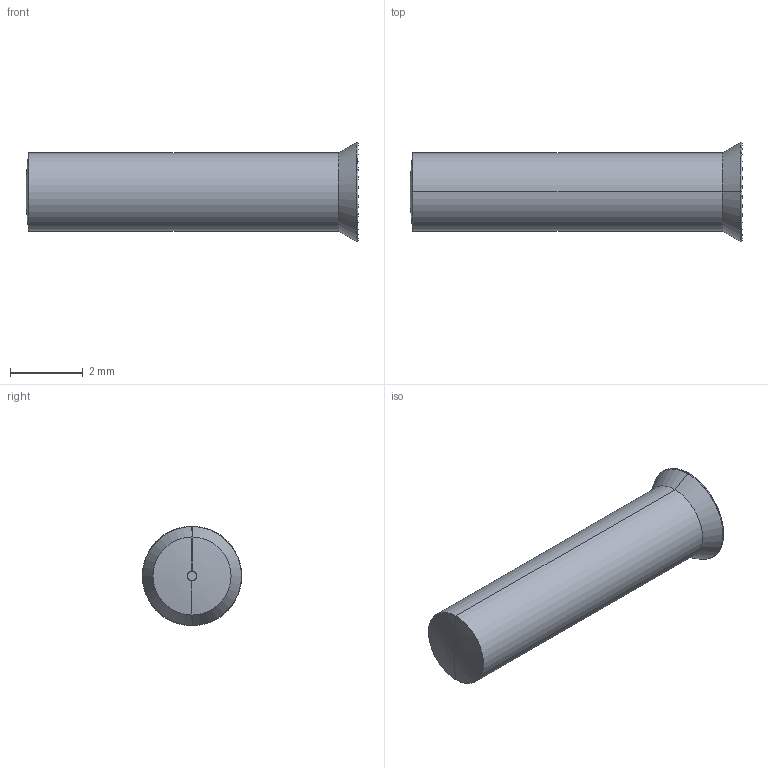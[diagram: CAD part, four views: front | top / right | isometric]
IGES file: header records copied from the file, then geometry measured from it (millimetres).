
Start section: SolidWorks IGES file using analytic representation for surfaces
Global section: file name: \\PSSILO\catalogs\CONTENTCENTRAL\Mainspring Cap Pin\Cache\E14DF600-25B7-4E63-B790-7CA6441F57E5.IGS; native system: SolidWorks 2009; preprocessor: SolidWorks 2009; author: partstream; date: 090731.225009; units: inch
Bounding box: 9.13 x 2.73 x 2.73 mm (x, y, z)
Surface area: 71.6 mm2 (no closed solid volume)
Topology: 0 solids, 0 shells, 12 faces, 88 edges, 88 vertices
Faces by surface type: revolution 8, bspline 4
